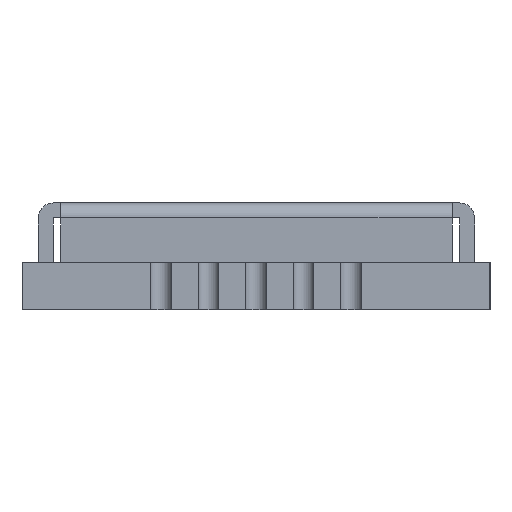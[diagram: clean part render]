
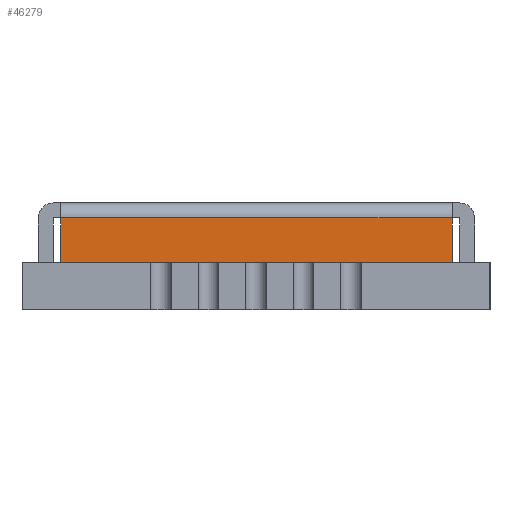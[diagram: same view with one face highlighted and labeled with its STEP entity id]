
A CAD part, left-side view. The second image highlights one B-rep face of the part: STEP entity #46279.
In plain terms, the highlighted planar face has unit normal (-1, 0, 0) as drawn and (0, 1, 0) by its records, which use the part's own axes.
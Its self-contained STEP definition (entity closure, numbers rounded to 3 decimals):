
#45727 = VERTEX_POINT('',#45728);
#45728 = CARTESIAN_POINT('',(5.214,7.39,0.));
#45734 = EDGE_CURVE('',#45727,#45735,#45737,.T.);
#45735 = VERTEX_POINT('',#45736);
#45736 = CARTESIAN_POINT('',(5.214,7.39,1.2));
#45737 = LINE('',#45738,#45739);
#45738 = CARTESIAN_POINT('',(5.214,7.39,0.));
#45739 = VECTOR('',#45740,1.);
#45740 = DIRECTION('',(0.,0.,1.));
#45922 = VERTEX_POINT('',#45923);
#45923 = CARTESIAN_POINT('',(-5.236,7.39,1.2));
#45930 = EDGE_CURVE('',#45931,#45922,#45933,.T.);
#45931 = VERTEX_POINT('',#45932);
#45932 = CARTESIAN_POINT('',(-5.236,7.39,0.));
#45933 = LINE('',#45934,#45935);
#45934 = CARTESIAN_POINT('',(-5.236,7.39,0.));
#45935 = VECTOR('',#45936,1.);
#45936 = DIRECTION('',(0.,0.,1.));
#46126 = EDGE_CURVE('',#45727,#45931,#46127,.T.);
#46127 = LINE('',#46128,#46129);
#46128 = CARTESIAN_POINT('',(5.214,7.39,0.));
#46129 = VECTOR('',#46130,1.);
#46130 = DIRECTION('',(-1.,0.,0.));
#46204 = EDGE_CURVE('',#45735,#45922,#46205,.T.);
#46205 = LINE('',#46206,#46207);
#46206 = CARTESIAN_POINT('',(2.601,7.39,1.2));
#46207 = VECTOR('',#46208,1.);
#46208 = DIRECTION('',(-1.,0.,0.));
#46279 = ADVANCED_FACE('',(#46280),#46286,.T.);
#46280 = FACE_BOUND('',#46281,.T.);
#46281 = EDGE_LOOP('',(#46282,#46283,#46284,#46285));
#46282 = ORIENTED_EDGE('',*,*,#46204,.F.);
#46283 = ORIENTED_EDGE('',*,*,#45734,.F.);
#46284 = ORIENTED_EDGE('',*,*,#46126,.T.);
#46285 = ORIENTED_EDGE('',*,*,#45930,.T.);
#46286 = PLANE('',#46287);
#46287 = AXIS2_PLACEMENT_3D('',#46288,#46289,#46290);
#46288 = CARTESIAN_POINT('',(5.214,7.39,0.));
#46289 = DIRECTION('',(0.,1.,0.));
#46290 = DIRECTION('',(-1.,0.,0.));
